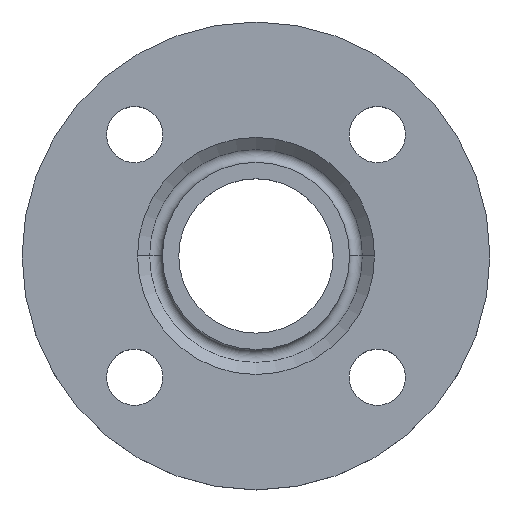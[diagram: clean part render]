
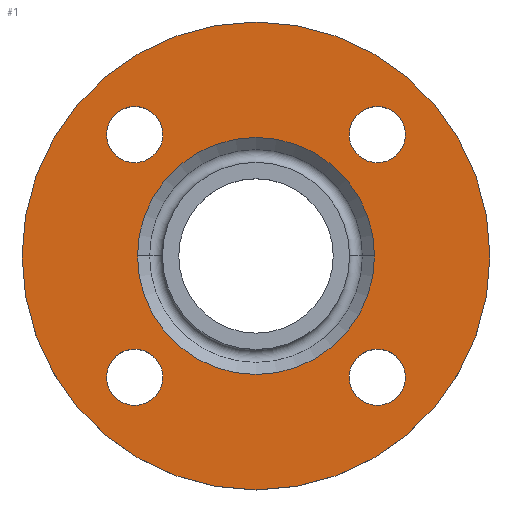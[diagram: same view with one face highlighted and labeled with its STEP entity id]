
A CAD part, top view. The second image highlights one B-rep face of the part: STEP entity #1.
In plain terms, the highlighted planar face has unit normal (0, 0, 1).
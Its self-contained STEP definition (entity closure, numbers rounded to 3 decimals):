
#1 = ADVANCED_FACE ( 'NONE', ( #540, #541, #542, #543, #544, #545 ), #546, .T. ) ;
#9 = CIRCLE ( 'NONE', #20, 38. ) ;
#13 = CIRCLE ( 'NONE', #199, 75. ) ;
#15 = CIRCLE ( 'NONE', #61, 9. ) ;
#20 = AXIS2_PLACEMENT_3D ( 'NONE', #658, #659, #660 ) ;
#21 = EDGE_CURVE ( 'NONE', #373, #526, #13, .T. ) ;
#29 = AXIS2_PLACEMENT_3D ( 'NONE', #346, #149, #188 ) ;
#30 = CIRCLE ( 'NONE', #29, 75. ) ;
#37 = AXIS2_PLACEMENT_3D ( 'NONE', #204, #197, #201 ) ;
#38 = CIRCLE ( 'NONE', #37, 9. ) ;
#41 = CIRCLE ( 'NONE', #43, 9. ) ;
#43 = AXIS2_PLACEMENT_3D ( 'NONE', #330, #173, #326 ) ;
#50 = CIRCLE ( 'NONE', #104, 38. ) ;
#61 = AXIS2_PLACEMENT_3D ( 'NONE', #606, #607, #608 ) ;
#67 = CIRCLE ( 'NONE', #405, 9. ) ;
#82 = EDGE_CURVE ( 'NONE', #386, #512, #15, .T. ) ;
#104 = AXIS2_PLACEMENT_3D ( 'NONE', #240, #245, #246 ) ;
#106 = EDGE_CURVE ( 'NONE', #370, #372, #131, .T. ) ;
#110 = CIRCLE ( 'NONE', #626, 9. ) ;
#111 = CIRCLE ( 'NONE', #135, 9. ) ;
#118 = EDGE_CURVE ( 'NONE', #353, #413, #67, .T. ) ;
#129 = AXIS2_PLACEMENT_3D ( 'NONE', #623, #624, #625 ) ;
#131 = CIRCLE ( 'NONE', #129, 9. ) ;
#135 = AXIS2_PLACEMENT_3D ( 'NONE', #684, #685, #686 ) ;
#136 = EDGE_CURVE ( 'NONE', #535, #409, #9, .T. ) ;
#149 = DIRECTION ( 'NONE',  ( 0., 0., -1. ) ) ;
#153 = CARTESIAN_POINT ( 'NONE',  ( 29.891, 38.891, -2. ) ) ;
#155 = CARTESIAN_POINT ( 'NONE',  ( 75., 0., -2. ) ) ;
#158 = CARTESIAN_POINT ( 'NONE',  ( -47.891, 38.891, -2. ) ) ;
#163 = CARTESIAN_POINT ( 'NONE',  ( 47.891, -38.891, -2. ) ) ;
#169 = CARTESIAN_POINT ( 'NONE',  ( -29.891, -38.891, -2. ) ) ;
#173 = DIRECTION ( 'NONE',  ( 0., 0., -1. ) ) ;
#179 = AXIS2_PLACEMENT_3D ( 'NONE', #547, #548, #549 ) ;
#180 = CARTESIAN_POINT ( 'NONE',  ( -75., 0., -2. ) ) ;
#188 = DIRECTION ( 'NONE',  ( -1., 0., 0. ) ) ;
#191 = CIRCLE ( 'NONE', #212, 9. ) ;
#193 = CARTESIAN_POINT ( 'NONE',  ( -47.891, -38.891, -2. ) ) ;
#197 = DIRECTION ( 'NONE',  ( 0., 0., -1. ) ) ;
#199 = AXIS2_PLACEMENT_3D ( 'NONE', #576, #578, #579 ) ;
#201 = DIRECTION ( 'NONE',  ( 1., 0., 0. ) ) ;
#202 = CARTESIAN_POINT ( 'NONE',  ( -38., 0., -2. ) ) ;
#204 = CARTESIAN_POINT ( 'NONE',  ( -38.891, -38.891, -2. ) ) ;
#206 = CARTESIAN_POINT ( 'NONE',  ( 29.891, -38.891, -2. ) ) ;
#207 = EDGE_CURVE ( 'NONE', #413, #353, #110, .T. ) ;
#212 = AXIS2_PLACEMENT_3D ( 'NONE', #232, #233, #235 ) ;
#224 = EDGE_CURVE ( 'NONE', #515, #528, #111, .T. ) ;
#232 = CARTESIAN_POINT ( 'NONE',  ( 38.891, -38.891, -2. ) ) ;
#233 = DIRECTION ( 'NONE',  ( 0., 0., -1. ) ) ;
#235 = DIRECTION ( 'NONE',  ( 1., 0., 0. ) ) ;
#240 = CARTESIAN_POINT ( 'NONE',  ( 0., 0., -2. ) ) ;
#245 = DIRECTION ( 'NONE',  ( 0., 0., -1. ) ) ;
#246 = DIRECTION ( 'NONE',  ( -1., 0., 0. ) ) ;
#257 = EDGE_CURVE ( 'NONE', #512, #386, #191, .T. ) ;
#276 = EDGE_CURVE ( 'NONE', #409, #535, #50, .T. ) ;
#285 = CARTESIAN_POINT ( 'NONE',  ( -29.891, 38.891, -2. ) ) ;
#325 = CARTESIAN_POINT ( 'NONE',  ( 47.891, 38.891, -2. ) ) ;
#326 = DIRECTION ( 'NONE',  ( 1., 0., 0. ) ) ;
#330 = CARTESIAN_POINT ( 'NONE',  ( 38.891, 38.891, -2. ) ) ;
#338 = CARTESIAN_POINT ( 'NONE',  ( 38., 0., -2. ) ) ;
#346 = CARTESIAN_POINT ( 'NONE',  ( 0., 0., -2. ) ) ;
#353 = VERTEX_POINT ( 'NONE', #285 ) ;
#370 = VERTEX_POINT ( 'NONE', #153 ) ;
#372 = VERTEX_POINT ( 'NONE', #325 ) ;
#373 = VERTEX_POINT ( 'NONE', #155 ) ;
#386 = VERTEX_POINT ( 'NONE', #206 ) ;
#392 = EDGE_LOOP ( 'NONE', ( #446, #447 ) ) ;
#402 = EDGE_CURVE ( 'NONE', #528, #515, #38, .T. ) ;
#405 = AXIS2_PLACEMENT_3D ( 'NONE', #628, #638, #640 ) ;
#408 = EDGE_LOOP ( 'NONE', ( #452, #453 ) ) ;
#409 = VERTEX_POINT ( 'NONE', #202 ) ;
#413 = VERTEX_POINT ( 'NONE', #158 ) ;
#427 = EDGE_LOOP ( 'NONE', ( #455, #456 ) ) ;
#429 = EDGE_LOOP ( 'NONE', ( #450, #451 ) ) ;
#446 = ORIENTED_EDGE ( 'NONE', *, *, #257, .T. ) ;
#447 = ORIENTED_EDGE ( 'NONE', *, *, #82, .T. ) ;
#448 = ORIENTED_EDGE ( 'NONE', *, *, #224, .T. ) ;
#449 = ORIENTED_EDGE ( 'NONE', *, *, #402, .T. ) ;
#450 = ORIENTED_EDGE ( 'NONE', *, *, #118, .T. ) ;
#451 = ORIENTED_EDGE ( 'NONE', *, *, #207, .T. ) ;
#452 = ORIENTED_EDGE ( 'NONE', *, *, #509, .T. ) ;
#453 = ORIENTED_EDGE ( 'NONE', *, *, #106, .T. ) ;
#455 = ORIENTED_EDGE ( 'NONE', *, *, #136, .T. ) ;
#456 = ORIENTED_EDGE ( 'NONE', *, *, #276, .T. ) ;
#457 = ORIENTED_EDGE ( 'NONE', *, *, #21, .F. ) ;
#458 = ORIENTED_EDGE ( 'NONE', *, *, #595, .F. ) ;
#508 = EDGE_LOOP ( 'NONE', ( #448, #449 ) ) ;
#509 = EDGE_CURVE ( 'NONE', #372, #370, #41, .T. ) ;
#512 = VERTEX_POINT ( 'NONE', #163 ) ;
#515 = VERTEX_POINT ( 'NONE', #169 ) ;
#526 = VERTEX_POINT ( 'NONE', #180 ) ;
#527 = EDGE_LOOP ( 'NONE', ( #457, #458 ) ) ;
#528 = VERTEX_POINT ( 'NONE', #193 ) ;
#535 = VERTEX_POINT ( 'NONE', #338 ) ;
#540 = FACE_BOUND ( 'NONE', #392, .T. ) ;
#541 = FACE_BOUND ( 'NONE', #508, .T. ) ;
#542 = FACE_BOUND ( 'NONE', #429, .T. ) ;
#543 = FACE_BOUND ( 'NONE', #408, .T. ) ;
#544 = FACE_BOUND ( 'NONE', #427, .T. ) ;
#545 = FACE_OUTER_BOUND ( 'NONE', #527, .T. ) ;
#546 = PLANE ( 'NONE',  #179 ) ;
#547 = CARTESIAN_POINT ( 'NONE',  ( 75., 0., -2. ) ) ;
#548 = DIRECTION ( 'NONE',  ( 0., 0., 1. ) ) ;
#549 = DIRECTION ( 'NONE',  ( 1., 0., 0. ) ) ;
#576 = CARTESIAN_POINT ( 'NONE',  ( 0., 0., -2. ) ) ;
#578 = DIRECTION ( 'NONE',  ( 0., 0., -1. ) ) ;
#579 = DIRECTION ( 'NONE',  ( -1., 0., 0. ) ) ;
#595 = EDGE_CURVE ( 'NONE', #526, #373, #30, .T. ) ;
#606 = CARTESIAN_POINT ( 'NONE',  ( 38.891, -38.891, -2. ) ) ;
#607 = DIRECTION ( 'NONE',  ( 0., 0., -1. ) ) ;
#608 = DIRECTION ( 'NONE',  ( 1., 0., 0. ) ) ;
#623 = CARTESIAN_POINT ( 'NONE',  ( 38.891, 38.891, -2. ) ) ;
#624 = DIRECTION ( 'NONE',  ( 0., 0., -1. ) ) ;
#625 = DIRECTION ( 'NONE',  ( 1., 0., 0. ) ) ;
#626 = AXIS2_PLACEMENT_3D ( 'NONE', #671, #672, #673 ) ;
#628 = CARTESIAN_POINT ( 'NONE',  ( -38.891, 38.891, -2. ) ) ;
#638 = DIRECTION ( 'NONE',  ( 0., 0., -1. ) ) ;
#640 = DIRECTION ( 'NONE',  ( 1., 0., 0. ) ) ;
#658 = CARTESIAN_POINT ( 'NONE',  ( 0., 0., -2. ) ) ;
#659 = DIRECTION ( 'NONE',  ( 0., 0., -1. ) ) ;
#660 = DIRECTION ( 'NONE',  ( -1., 0., 0. ) ) ;
#671 = CARTESIAN_POINT ( 'NONE',  ( -38.891, 38.891, -2. ) ) ;
#672 = DIRECTION ( 'NONE',  ( 0., 0., -1. ) ) ;
#673 = DIRECTION ( 'NONE',  ( 1., 0., 0. ) ) ;
#684 = CARTESIAN_POINT ( 'NONE',  ( -38.891, -38.891, -2. ) ) ;
#685 = DIRECTION ( 'NONE',  ( 0., 0., -1. ) ) ;
#686 = DIRECTION ( 'NONE',  ( 1., 0., 0. ) ) ;
